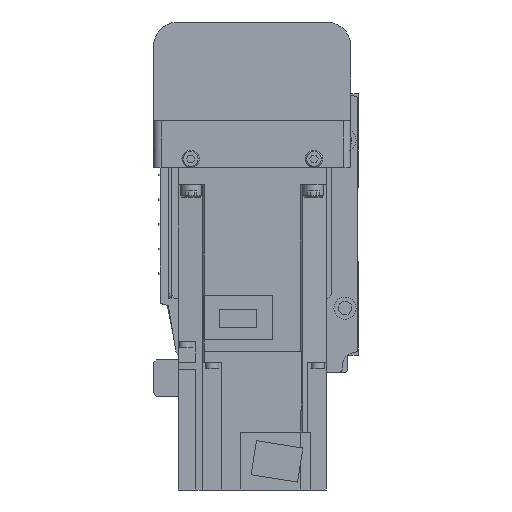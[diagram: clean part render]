
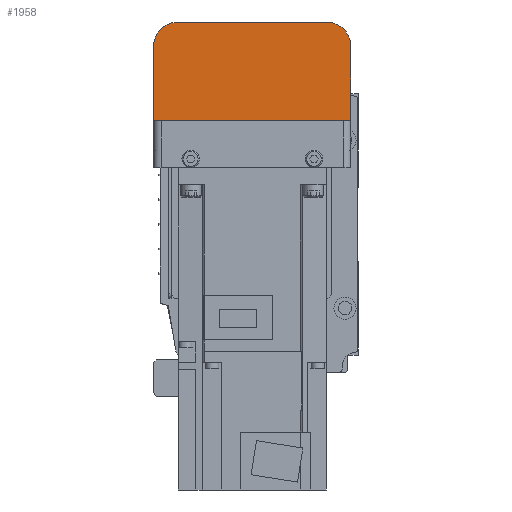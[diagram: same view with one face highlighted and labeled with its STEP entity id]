
A CAD part, left-side view. The second image highlights one B-rep face of the part: STEP entity #1958.
In plain terms, the highlighted planar face has unit normal (-1, 0, 0).
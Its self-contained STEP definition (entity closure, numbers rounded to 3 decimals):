
#1958 = ADVANCED_FACE( '', ( #4136 ), #4137, .F. );
#4136 = FACE_OUTER_BOUND( '', #6480, .T. );
#4137 = PLANE( '', #6481 );
#6480 = EDGE_LOOP( '', ( #11923, #11924, #11925, #11926, #11927, #11928 ) );
#6481 = AXIS2_PLACEMENT_3D( '', #11929, #11930, #11931 );
#11923 = ORIENTED_EDGE( '', *, *, #15176, .F. );
#11924 = ORIENTED_EDGE( '', *, *, #15225, .F. );
#11925 = ORIENTED_EDGE( '', *, *, #15151, .F. );
#11926 = ORIENTED_EDGE( '', *, *, #13702, .F. );
#11927 = ORIENTED_EDGE( '', *, *, #13445, .F. );
#11928 = ORIENTED_EDGE( '', *, *, #13889, .F. );
#11929 = CARTESIAN_POINT( '', ( -192., 37., 7. ) );
#11930 = DIRECTION( '', ( 1., 0., 0. ) );
#11931 = DIRECTION( '', ( 0., 0., -1. ) );
#13445 = EDGE_CURVE( '', #15967, #15969, #15970, .T. );
#13702 = EDGE_CURVE( '', #15969, #16427, #16428, .T. );
#13889 = EDGE_CURVE( '', #16753, #15967, #16755, .T. );
#15151 = EDGE_CURVE( '', #16427, #18665, #18666, .T. );
#15176 = EDGE_CURVE( '', #15991, #16753, #18701, .T. );
#15225 = EDGE_CURVE( '', #18665, #15991, #18763, .T. );
#15967 = VERTEX_POINT( '', #19646 );
#15969 = VERTEX_POINT( '', #19649 );
#15970 = CIRCLE( '', #19650, 10. );
#15991 = VERTEX_POINT( '', #19678 );
#16427 = VERTEX_POINT( '', #20249 );
#16428 = LINE( '', #20250, #20251 );
#16753 = VERTEX_POINT( '', #20694 );
#16755 = LINE( '', #20697, #20698 );
#18665 = VERTEX_POINT( '', #23284 );
#18666 = CIRCLE( '', #23285, 10. );
#18701 = LINE( '', #23339, #23340 );
#18763 = LINE( '', #23430, #23431 );
#19646 = CARTESIAN_POINT( '', ( -192., -40., -42. ) );
#19649 = CARTESIAN_POINT( '', ( -192., -30., -52. ) );
#19650 = AXIS2_PLACEMENT_3D( '', #24423, #24424, #24425 );
#19678 = CARTESIAN_POINT( '', ( -192., 40., -12.1 ) );
#20249 = CARTESIAN_POINT( '', ( -192., 30., -52. ) );
#20250 = CARTESIAN_POINT( '', ( -192., -30., -52. ) );
#20251 = VECTOR( '', #24784, 1000. );
#20694 = CARTESIAN_POINT( '', ( -192., -40., -12.1 ) );
#20697 = CARTESIAN_POINT( '', ( -192., -40., -12.1 ) );
#20698 = VECTOR( '', #25009, 1000. );
#23284 = CARTESIAN_POINT( '', ( -192., 40., -42. ) );
#23285 = AXIS2_PLACEMENT_3D( '', #26526, #26527, #26528 );
#23339 = CARTESIAN_POINT( '', ( -192., 50., -12.1 ) );
#23340 = VECTOR( '', #26551, 1000. );
#23430 = CARTESIAN_POINT( '', ( -192., 40., -42. ) );
#23431 = VECTOR( '', #26589, 1000. );
#24423 = CARTESIAN_POINT( '', ( -192., -30., -42. ) );
#24424 = DIRECTION( '', ( 1., 0., 0. ) );
#24425 = DIRECTION( '', ( 0., 0., -1. ) );
#24784 = DIRECTION( '', ( 0., 1., 0. ) );
#25009 = DIRECTION( '', ( 0., 0., -1. ) );
#26526 = CARTESIAN_POINT( '', ( -192., 30., -42. ) );
#26527 = DIRECTION( '', ( 1., 0., 0. ) );
#26528 = DIRECTION( '', ( 0., 0., -1. ) );
#26551 = DIRECTION( '', ( 0., -1., 0. ) );
#26589 = DIRECTION( '', ( 0., 0., 1. ) );
